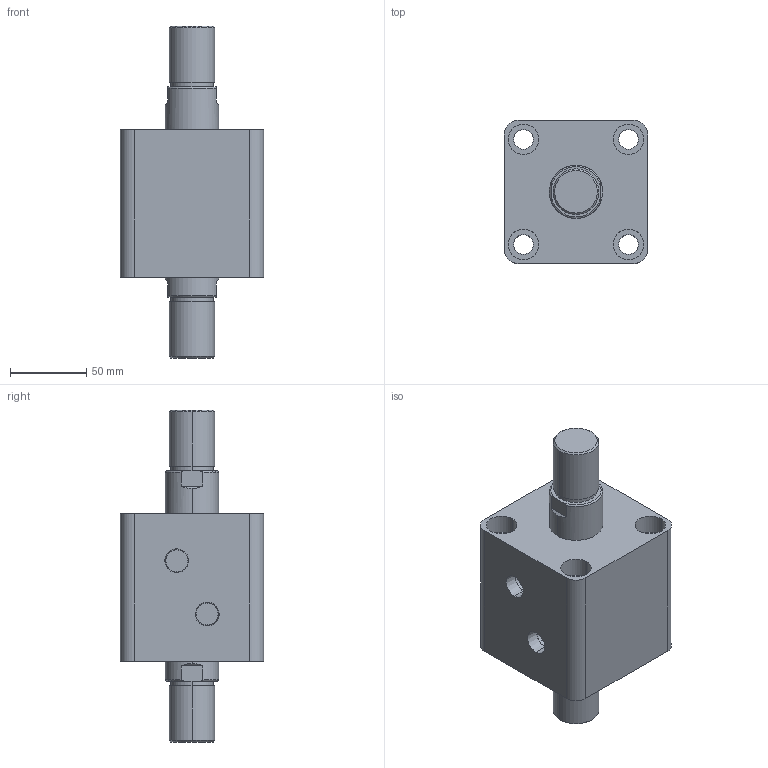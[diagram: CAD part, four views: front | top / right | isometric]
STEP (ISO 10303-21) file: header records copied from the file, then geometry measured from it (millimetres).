
FILE_DESCRIPTION (( 'STEP AP203' ), '1' );
FILE_NAME ('HTB-SW63-15W.STEP', '2019-10-07T10:02:26', ( '微软用户' ), ( '微软中国' ), 'SwSTEP 2.0', 'SolidWorks 2012', '' );
FILE_SCHEMA (( 'CONFIG_CONTROL_DESIGN' ));
Length unit declared in the file: millimetre
Products named in the file (3): HTB-SW63-15W; HTB-SW63-15W活塞杆; HTB-SW63-15掛极
Assembly tree (2 placements, depth 2):
  HTB-SW63-15W
    HTB-SW63-15掛极
    HTB-SW63-15W活塞杆
Bounding box: 94 x 94 x 218 mm (x, y, z)
Volume: 838633.3 mm3; surface area: 117202.9 mm2
Topology: 2 solids, 2 shells, 108 faces, 240 edges, 156 vertices
Faces by surface type: cylinder 52, plane 36, torus 12, cone 8
Entity records: 3465 total; most frequent: CARTESIAN_POINT 645, DIRECTION 586, ORIENTED_EDGE 480, AXIS2_PLACEMENT_3D 249, EDGE_CURVE 240, VERTEX_POINT 156, EDGE_LOOP 138, CIRCLE 136
